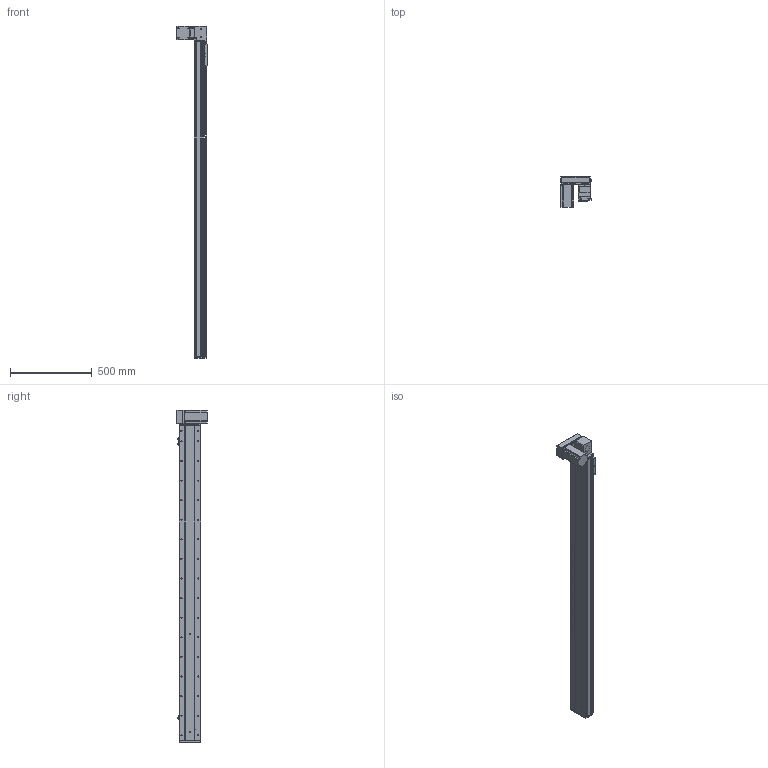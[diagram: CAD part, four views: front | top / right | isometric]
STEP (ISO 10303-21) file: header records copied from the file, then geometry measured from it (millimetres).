
FILE_DESCRIPTION (( 'STEP AP214' ), '1' );
FILE_NAME ('KSD130B-S1700-MRD-CM.STEP', '2019-09-23T01:58:03', ( '微软用户' ), ( '微软中国' ), 'SwSTEP 2.0', 'SolidWorks 2014', '' );
FILE_SCHEMA (( 'AUTOMOTIVE_DESIGN' ));
Length unit declared in the file: millimetre
Products named in the file (12): U倰嫖萇EEㄜSX672; 130宽盖板半封闭同步带-1700行程; 130宽马达安装板同步带右-改镜向_默认<按加工>; 130宽马达安装板同步带半封闭; 130宽同步带安装座半封闭; 130宽端盖同步带半封闭; 130宽底板半封闭同步带-1700行程; KSD130B-S1700-MRD-CM; 130宽模组保护罩上下左右折-同步带; 台达ECMA－C20807AS伺服电机; 130宽模组马达安装板连板上下折丝杆同步带; 覜茼え100遵圉猾敕
Assembly tree (13 placements, depth 2):
  KSD130B-S1700-MRD-CM
    130宽底板半封闭同步带-1700行程
    130宽端盖同步带半封闭
    130宽同步带安装座半封闭
    130宽马达安装板同步带半封闭
    130宽马达安装板同步带右-改镜向_默认<按加工>
    130宽盖板半封闭同步带-1700行程
    U倰嫖萇EEㄜSX672  x3
    覜茼え100遵圉猾敕
    130宽模组马达安装板连板上下折丝杆同步带
    台达ECMA－C20807AS伺服电机
    130宽模组保护罩上下左右折-同步带
Bounding box: 186 x 184.8 x 2033 mm (x, y, z)
Volume: 6853334.8 mm3; surface area: 1936233.6 mm2
Topology: 14 solids, 14 shells, 1719 faces, 5005 edges, 3171 vertices
Faces by surface type: cylinder 846, plane 650, cone 223
Entity records: 58575 total; most frequent: CARTESIAN_POINT 11328, DIRECTION 8831, ORIENTED_EDGE 8550, EDGE_CURVE 4275, AXIS2_PLACEMENT_3D 3254, VERTEX_POINT 2795, VECTOR 2323, LINE 2323
